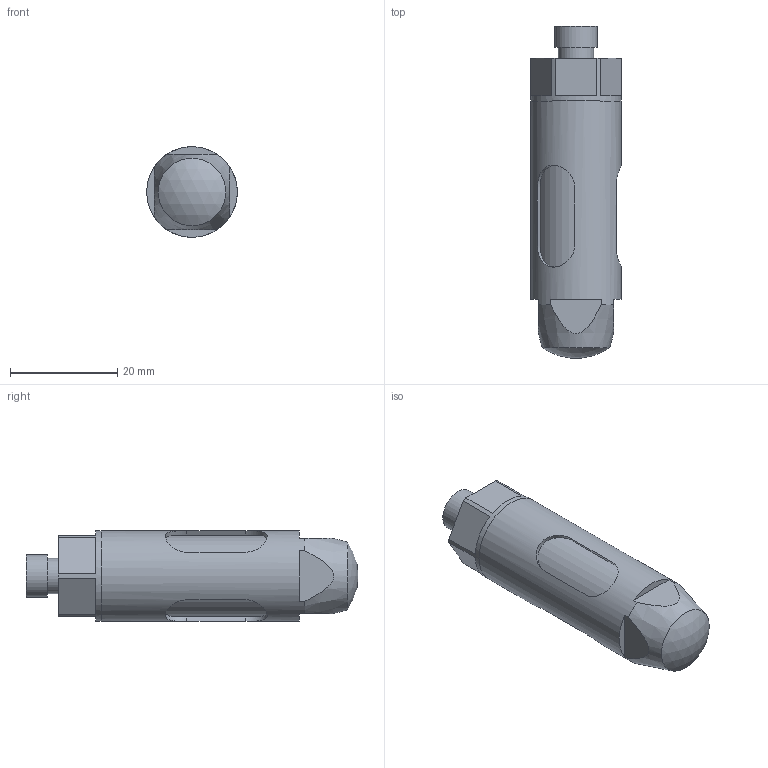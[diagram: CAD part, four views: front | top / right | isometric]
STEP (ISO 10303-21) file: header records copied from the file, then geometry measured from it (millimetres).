
FILE_DESCRIPTION(/* description */ (''),/* implementation_level */ '2;1');
FILE_NAME(/* name */ 'T:\Anwender\Praktikant\Tobias Könemund\Innengreifer\Parametrisch\G-GI017_vereinfacht.stp',/* time_stamp */ '2015-10-30T08:19:12+01:00',/* author */ ('Praktikant'),/* organization */ ('GRIP GmbH'),/* preprocessor_version */ 'ST-DEVELOPER v15.2',/* originating_system */ 'Autodesk Inventor 2014',/* authorisation */ '');
FILE_SCHEMA (('AUTOMOTIVE_DESIGN { 1 0 10303 214 3 1 1 }'));
Length unit declared in the file: millimetre
Products named in the file (3): G-GI017-2.1-1 Dorn_vereinfacht-04; G-GI017-1.1-1 Hülse_vereinfacht-15; Baugruppe_vereinfacht
Bounding box: 16.9 x 61.94 x 16.9 mm (x, y, z)
Volume: 11007.1 mm3; surface area: 6534.8 mm2
Topology: 2 solids, 2 shells, 49 faces, 125 edges, 83 vertices
Faces by surface type: plane 33, cylinder 13, cone 2, sphere 1
Full cylindrical faces by diameter (mm): 5 x1, 6.6 x1, 8 x1, 15 x1, 15.3 x1, 16.9 x2
Entity records: 1640 total; most frequent: CARTESIAN_POINT 452, DIRECTION 234, ORIENTED_EDGE 218, EDGE_CURVE 109, AXIS2_PLACEMENT_3D 87, VERTEX_POINT 77, EDGE_LOOP 68, LINE 60
